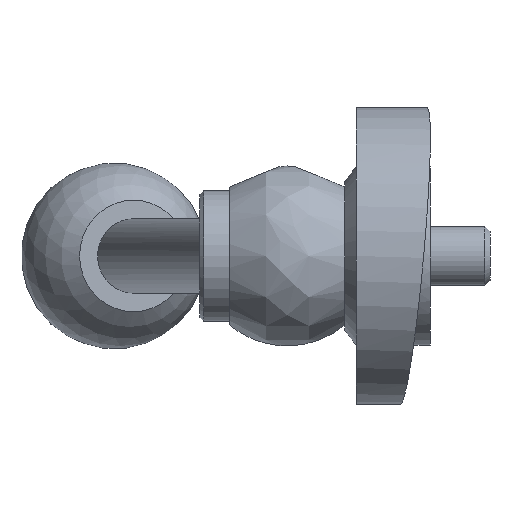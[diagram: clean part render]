
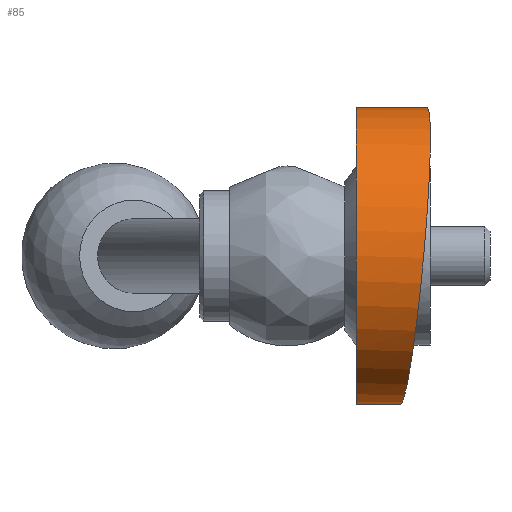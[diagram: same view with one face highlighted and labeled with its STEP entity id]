
A CAD part, left-side view. The second image highlights one B-rep face of the part: STEP entity #85.
In plain terms, the highlighted cylindrical face has radius 20 mm (diameter 40 mm), a partial arc.
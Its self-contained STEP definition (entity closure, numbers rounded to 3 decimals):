
#85 = ADVANCED_FACE( '', ( #139 ), #140, .T. );
#139 = FACE_OUTER_BOUND( '', #256, .T. );
#140 = CYLINDRICAL_SURFACE( '', #257, 20. );
#256 = EDGE_LOOP( '', ( #356, #357, #358, #359 ) );
#257 = AXIS2_PLACEMENT_3D( '', #360, #361, #362 );
#356 = ORIENTED_EDGE( '', *, *, #527, .F. );
#357 = ORIENTED_EDGE( '', *, *, #528, .F. );
#358 = ORIENTED_EDGE( '', *, *, #529, .T. );
#359 = ORIENTED_EDGE( '', *, *, #530, .F. );
#360 = CARTESIAN_POINT( '', ( 0., 0., 0. ) );
#361 = DIRECTION( '', ( 0., 1., 0. ) );
#362 = DIRECTION( '', ( 0., 0., -1. ) );
#527 = EDGE_CURVE( '', #595, #596, #597, .T. );
#528 = EDGE_CURVE( '', #598, #595, #599, .T. );
#529 = EDGE_CURVE( '', #598, #600, #601, .T. );
#530 = EDGE_CURVE( '', #596, #600, #602, .F. );
#595 = VERTEX_POINT( '', #760 );
#596 = VERTEX_POINT( '', #761 );
#597 = ELLIPSE( '', #762, 20.127, 20. );
#598 = VERTEX_POINT( '', #763 );
#599 = LINE( '', #764, #765 );
#600 = VERTEX_POINT( '', #766 );
#601 = CIRCLE( '', #767, 20. );
#602 = LINE( '', #768, #769 );
#760 = CARTESIAN_POINT( '', ( 12., 1.638, 16. ) );
#761 = CARTESIAN_POINT( '', ( 12., 4.53, -16. ) );
#762 = AXIS2_PLACEMENT_3D( '', #891, #892, #893 );
#763 = CARTESIAN_POINT( '', ( 12., 10., 16. ) );
#764 = CARTESIAN_POINT( '', ( 12., 0., 16. ) );
#765 = VECTOR( '', #894, 1000. );
#766 = CARTESIAN_POINT( '', ( 12., 10., -16. ) );
#767 = AXIS2_PLACEMENT_3D( '', #895, #896, #897 );
#768 = CARTESIAN_POINT( '', ( 12., 0., -16. ) );
#769 = VECTOR( '', #898, 1000. );
#891 = CARTESIAN_POINT( '', ( 0., 2.271, 0. ) );
#892 = DIRECTION( '', ( 0.067, -0.994, -0.09 ) );
#893 = DIRECTION( '', ( -0.596, -0.112, 0.795 ) );
#894 = DIRECTION( '', ( 0., -1., 0. ) );
#895 = CARTESIAN_POINT( '', ( 0., 10., 0. ) );
#896 = DIRECTION( '', ( 0., -1., 0. ) );
#897 = DIRECTION( '', ( 0., 0., -1. ) );
#898 = DIRECTION( '', ( 0., -1., 0. ) );
